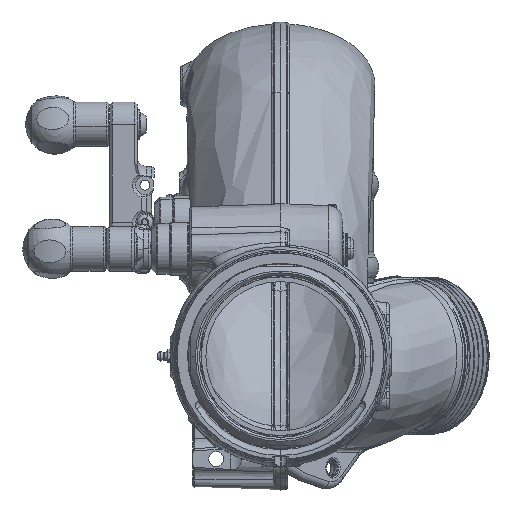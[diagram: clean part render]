
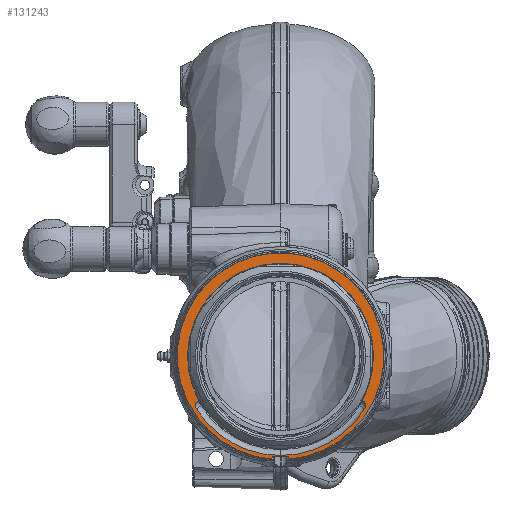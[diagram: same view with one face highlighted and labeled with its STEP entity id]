
A CAD part, front view. The second image highlights one B-rep face of the part: STEP entity #131243.
In plain terms, the highlighted planar face has unit normal (0, -1, 0).
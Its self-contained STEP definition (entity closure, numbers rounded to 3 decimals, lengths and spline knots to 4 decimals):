
#255 = AXIS2_PLACEMENT_3D ( 'NONE', #60342, #133751, #8979 ) ;
#3245 = EDGE_CURVE ( 'NONE', #94650, #128332, #21005, .T. ) ;
#3574 = AXIS2_PLACEMENT_3D ( 'NONE', #88569, #45438, #76640 ) ;
#7153 = ORIENTED_EDGE ( 'NONE', *, *, #110438, .F. ) ;
#8979 = DIRECTION ( 'NONE',  ( 0., 0., 1. ) ) ;
#9364 = LINE ( 'NONE', #98845, #68428 ) ;
#10886 = VERTEX_POINT ( 'NONE', #100212 ) ;
#10895 = VERTEX_POINT ( 'NONE', #121746 ) ;
#14863 = CARTESIAN_POINT ( 'NONE',  ( 2.1977, -4.55, -1.1894 ) ) ;
#15627 = DIRECTION ( 'NONE',  ( 0., 0., -1. ) ) ;
#18018 = CIRCLE ( 'NONE', #133666, 2.66 ) ;
#21005 = CIRCLE ( 'NONE', #124491, 2.4925 ) ;
#21435 = EDGE_CURVE ( 'NONE', #10895, #10886, #30666, .T. ) ;
#23918 = LINE ( 'NONE', #14863, #25467 ) ;
#25467 = VECTOR ( 'NONE', #58314, 39.3701 ) ;
#29442 = CARTESIAN_POINT ( 'NONE',  ( -0.22, -4.55, 2.4925 ) ) ;
#30666 = CIRCLE ( 'NONE', #3574, 0.1563 ) ;
#32642 = EDGE_CURVE ( 'NONE', #85505, #46368, #82237, .T. ) ;
#32885 = VERTEX_POINT ( 'NONE', #58201 ) ;
#33785 = ORIENTED_EDGE ( 'NONE', *, *, #96873, .F. ) ;
#38305 = CARTESIAN_POINT ( 'NONE',  ( -2.2558, -4.55, -1.4096 ) ) ;
#41170 = EDGE_CURVE ( 'NONE', #54783, #48453, #99463, .T. ) ;
#41331 = LINE ( 'NONE', #122095, #90582 ) ;
#42260 = EDGE_CURVE ( 'NONE', #10886, #128332, #23918, .T. ) ;
#44989 = CARTESIAN_POINT ( 'NONE',  ( -2.1233, -4.55, -1.3268 ) ) ;
#45153 = DIRECTION ( 'NONE',  ( 0., 0., 1. ) ) ;
#45438 = DIRECTION ( 'NONE',  ( 0., -1., 0. ) ) ;
#46368 = VERTEX_POINT ( 'NONE', #38305 ) ;
#46858 = ORIENTED_EDGE ( 'NONE', *, *, #68460, .T. ) ;
#48453 = VERTEX_POINT ( 'NONE', #66524 ) ;
#54279 = DIRECTION ( 'NONE',  ( 0., 0., 1. ) ) ;
#54783 = VERTEX_POINT ( 'NONE', #66530 ) ;
#54790 = CARTESIAN_POINT ( 'NONE',  ( 0.22, -4.55, -2.69 ) ) ;
#55247 = ORIENTED_EDGE ( 'NONE', *, *, #90979, .F. ) ;
#56802 = CARTESIAN_POINT ( 'NONE',  ( 0., -4.55, 0. ) ) ;
#57704 = ORIENTED_EDGE ( 'NONE', *, *, #42260, .F. ) ;
#58201 = CARTESIAN_POINT ( 'NONE',  ( -0.22, -4.55, -2.69 ) ) ;
#58314 = DIRECTION ( 'NONE',  ( -0.879, 0., 0.476 ) ) ;
#60342 = CARTESIAN_POINT ( 'NONE',  ( 0., -4.55, 2.4925 ) ) ;
#60855 = FACE_BOUND ( 'NONE', #99347, .T. ) ;
#62910 = ORIENTED_EDGE ( 'NONE', *, *, #41170, .T. ) ;
#66524 = CARTESIAN_POINT ( 'NONE',  ( -0.22, -4.55, -2.7587 ) ) ;
#66530 = CARTESIAN_POINT ( 'NONE',  ( 0.22, -4.55, -2.7587 ) ) ;
#68428 = VECTOR ( 'NONE', #45153, 39.3701 ) ;
#68460 = EDGE_CURVE ( 'NONE', #32885, #112807, #41331, .T. ) ;
#69338 = DIRECTION ( 'NONE',  ( 1., 0., 0. ) ) ;
#69663 = CARTESIAN_POINT ( 'NONE',  ( -2.1921, -4.55, -1.1863 ) ) ;
#72569 = EDGE_LOOP ( 'NONE', ( #33785, #62910, #79997, #46858 ) ) ;
#74961 = ORIENTED_EDGE ( 'NONE', *, *, #32642, .F. ) ;
#76640 = DIRECTION ( 'NONE',  ( 0., 0., 1. ) ) ;
#79997 = ORIENTED_EDGE ( 'NONE', *, *, #115505, .F. ) ;
#82029 = ORIENTED_EDGE ( 'NONE', *, *, #3245, .T. ) ;
#82237 = CIRCLE ( 'NONE', #121195, 0.1563 ) ;
#84111 = ORIENTED_EDGE ( 'NONE', *, *, #21435, .F. ) ;
#85490 = DIRECTION ( 'NONE',  ( 0., -1., 0. ) ) ;
#85505 = VERTEX_POINT ( 'NONE', #92241 ) ;
#88101 = CARTESIAN_POINT ( 'NONE',  ( 0., -4.55, 0. ) ) ;
#88510 = DIRECTION ( 'NONE',  ( 0., -1., 0. ) ) ;
#88569 = CARTESIAN_POINT ( 'NONE',  ( 2.1233, -4.55, -1.3268 ) ) ;
#88773 = FACE_OUTER_BOUND ( 'NONE', #72569, .T. ) ;
#90499 = DIRECTION ( 'NONE',  ( 0., 0., -1. ) ) ;
#90582 = VECTOR ( 'NONE', #69338, 39.3701 ) ;
#90979 = EDGE_CURVE ( 'NONE', #46368, #10895, #18018, .T. ) ;
#92241 = CARTESIAN_POINT ( 'NONE',  ( -2.1977, -4.55, -1.1894 ) ) ;
#94650 = VERTEX_POINT ( 'NONE', #69663 ) ;
#95823 = CARTESIAN_POINT ( 'NONE',  ( 0., -4.55, 0. ) ) ;
#96873 = EDGE_CURVE ( 'NONE', #54783, #112807, #9364, .T. ) ;
#97341 = DIRECTION ( 'NONE',  ( -0.879, 0., -0.476 ) ) ;
#97637 = DIRECTION ( 'NONE',  ( 0., 1., 0. ) ) ;
#98074 = DIRECTION ( 'NONE',  ( 0., 0., -1. ) ) ;
#98845 = CARTESIAN_POINT ( 'NONE',  ( 0.22, -4.55, 2.4925 ) ) ;
#99085 = DIRECTION ( 'NONE',  ( 0., 0., 1. ) ) ;
#99347 = EDGE_LOOP ( 'NONE', ( #7153, #82029, #57704, #84111, #55247, #74961 ) ) ;
#99463 = CIRCLE ( 'NONE', #114244, 2.7675 ) ;
#100212 = CARTESIAN_POINT ( 'NONE',  ( 2.1977, -4.55, -1.1894 ) ) ;
#103497 = PLANE ( 'NONE',  #255 ) ;
#107468 = VECTOR ( 'NONE', #90499, 39.3701 ) ;
#110438 = EDGE_CURVE ( 'NONE', #94650, #85505, #119408, .T. ) ;
#112807 = VERTEX_POINT ( 'NONE', #54790 ) ;
#114244 = AXIS2_PLACEMENT_3D ( 'NONE', #56802, #88510, #99085 ) ;
#115505 = EDGE_CURVE ( 'NONE', #32885, #48453, #122119, .T. ) ;
#118445 = DIRECTION ( 'NONE',  ( 0., -1., 0. ) ) ;
#119408 = LINE ( 'NONE', #88101, #122617 ) ;
#121195 = AXIS2_PLACEMENT_3D ( 'NONE', #44989, #118445, #15627 ) ;
#121746 = CARTESIAN_POINT ( 'NONE',  ( 2.2558, -4.55, -1.4096 ) ) ;
#122095 = CARTESIAN_POINT ( 'NONE',  ( 0.22, -4.55, -2.69 ) ) ;
#122119 = LINE ( 'NONE', #29442, #107468 ) ;
#122617 = VECTOR ( 'NONE', #97341, 39.3701 ) ;
#124491 = AXIS2_PLACEMENT_3D ( 'NONE', #95823, #97637, #98074 ) ;
#125628 = CARTESIAN_POINT ( 'NONE',  ( 2.1921, -4.55, -1.1863 ) ) ;
#128332 = VERTEX_POINT ( 'NONE', #125628 ) ;
#131243 = ADVANCED_FACE ( 'NONE', ( #88773, #60855 ), #103497, .T. ) ;
#133666 = AXIS2_PLACEMENT_3D ( 'NONE', #135984, #85490, #54279 ) ;
#133751 = DIRECTION ( 'NONE',  ( 0., -1., 0. ) ) ;
#135984 = CARTESIAN_POINT ( 'NONE',  ( 0., -4.55, 0. ) ) ;
